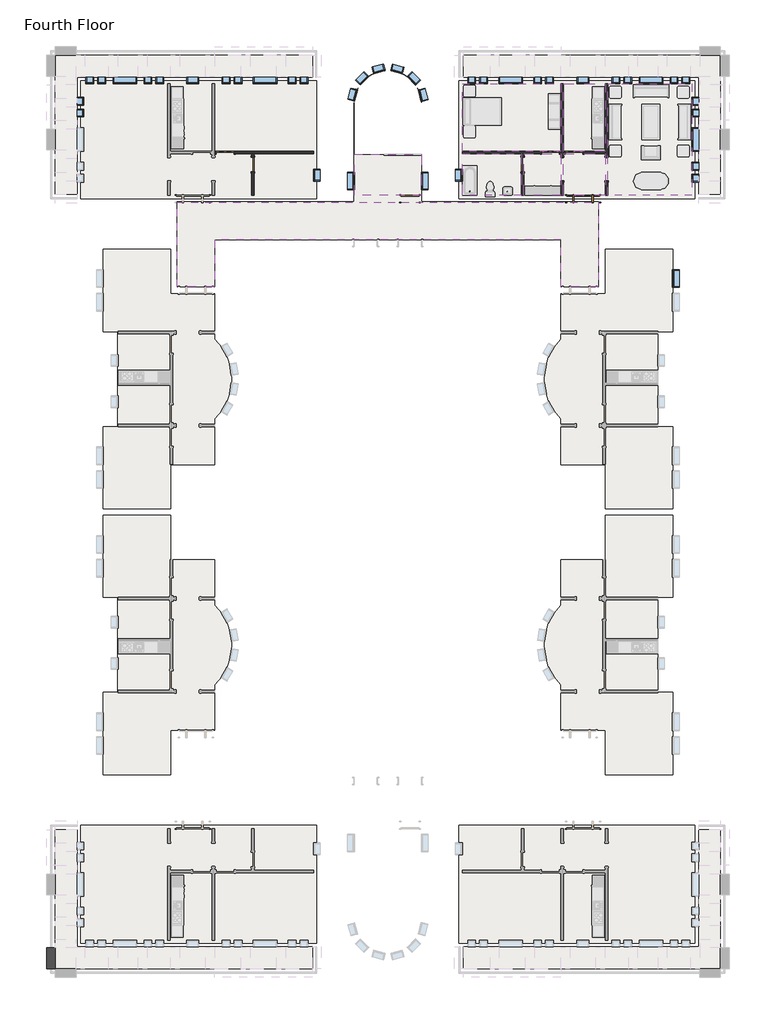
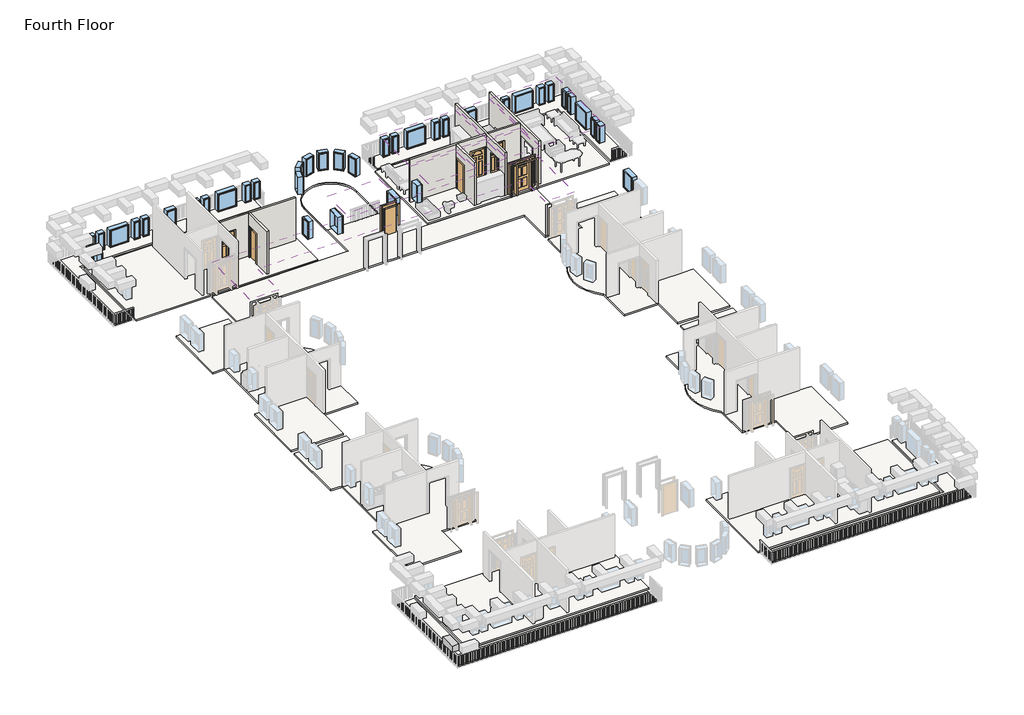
# One storey, part 3 of 5: 40 windows, 13 slabs, 8 coverings, 7 doors, 7 walls, 1 beam.
"""IFC4 building model written with IfcOpenShell, lengths in millimetres."""

from ifc_helpers import new_model, si_unit, point, frame, frame_2d, origin, place, context, project, spatial, polyline, circle_curve, trimmed, segment, composite_curve, outline, extrude, faceted_brep, transform, mapped, element, save
from components import door_829da954, door_2e3b4da2, door_4d6c7550, door_e36758a9, door_632be17d, door_dba5aa2e, window_da97879f, window_d61ef850, window_60baf983, window_ed80354a, window_15c49d37, window_0e2fc6ce, window_6eb97611, window_d89bf842

model = new_model("IFC4")

# Units and contexts
model_context = context("Model", 3, world=origin())
ifc_project = project(units=[si_unit("LENGTHUNIT", "METRE", prefix="MILLI")], contexts=[model_context])

# Site, building, storey
site = spatial("IfcSite", under=ifc_project)
building = spatial("IfcBuilding", under=site)
storey = spatial("IfcBuildingStorey", under=building, Name="Fourth Floor", Elevation=9144.0)

# Beam
placement = place(None, origin())
element("IfcBeam", 1, ObjectType="Concrete-Rectangular Beam : 18 x 18", at=placement, inside=storey, context=model_context, shape_type="SweptSolid", body=[
    extrude(outline(polyline([(-32675.4839563, -34283.1683133), (-32218.2839563, -34283.1683133), (-32218.2839563, -35349.9683133), (-32675.4839563, -35349.9683133), (-32675.4839563, -34283.1683133)])), frame((0.0, 0.0, 10210.8), z_axis=(0.0, 0.0, 1.0), x_axis=(1.0, 0.0, 0.0)), (0.0, 0.0, 1.0), 457.2),
])

# Coverings
element("IfcCovering", 2, ObjectType="GWB on Mtl. Stud", at=placement, inside=storey, context=model_context, shape_type="SweptSolid", body=[
    extrude(outline(polyline([(-11217.2464563, 10270.0191867), (-6122.9589563, 10270.0191867), (-6122.9589563, 6787.0441867), (-11217.2464563, 6787.0441867), (-11217.2464563, 10270.0191867)])), frame((0.0, 0.0, 11734.8), z_axis=(0.0, 0.0, 1.0), x_axis=(1.0, 0.0, 0.0)), (0.0, 0.0, 1.0), 107.95),
])
element("IfcCovering", 3, ObjectType="GWB on Mtl. Stud", at=placement, inside=storey, context=model_context, shape_type="SweptSolid", body=[
    extrude(outline(polyline([(-5995.9589563, 6787.0441867), (-5995.9589563, 10270.0191867), (-3836.9589563, 10270.0191867), (-3836.9589563, 6787.0441867), (-5995.9589563, 6787.0441867)])), frame((0.0, 0.0, 11734.8), z_axis=(0.0, 0.0, 1.0), x_axis=(1.0, 0.0, 0.0)), (0.0, 0.0, 1.0), 107.95),
])
element("IfcCovering", 4, ObjectType="GWB on Mtl. Stud", at=placement, inside=storey, context=model_context, shape_type="SweptSolid", body=[
    extrude(outline(polyline([(-3709.9589563, 4526.4441867), (-3709.9589563, 10270.0191867), (622.3285437, 10270.0191867), (622.3285437, 4526.4441867), (-3709.9589563, 4526.4441867)])), frame((0.0, 0.0, 11734.8), z_axis=(0.0, 0.0, 1.0), x_axis=(1.0, 0.0, 0.0)), (0.0, 0.0, 1.0), 107.95),
])
element("IfcCovering", 5, ObjectType="GWB on Mtl. Stud", at=placement, inside=storey, context=model_context, shape_type="SweptSolid", body=[
    extrude(outline(polyline([(-3836.9589563, 4526.4441867), (-5995.9589563, 4526.4441867), (-5995.9589563, 6660.0441867), (-3836.9589563, 6660.0441867), (-3836.9589563, 4526.4441867)])), frame((0.0, 0.0, 11734.8), z_axis=(0.0, 0.0, 1.0), x_axis=(1.0, 0.0, 0.0)), (0.0, 0.0, 1.0), 107.95),
])
element("IfcCovering", 6, ObjectType="GWB on Mtl. Stud", at=placement, inside=storey, context=model_context, shape_type="SweptSolid", body=[
    extrude(outline(polyline([(-6122.9589563, 4526.4441867), (-8042.2464563, 4526.4441867), (-8042.2464563, 6660.0441867), (-6122.9589563, 6660.0441867), (-6122.9589563, 4526.4441867)])), frame((0.0, 0.0, 11734.8), z_axis=(0.0, 0.0, 1.0), x_axis=(1.0, 0.0, 0.0)), (0.0, 0.0, 1.0), 107.95),
])
element("IfcCovering", 7, ObjectType="GWB on Mtl. Stud", at=placement, inside=storey, context=model_context, shape_type="SweptSolid", body=[
    extrude(outline(polyline([(-8169.2464563, 6660.0441867), (-8169.2464563, 4526.4441867), (-11217.2464563, 4526.4441867), (-11217.2464563, 6660.0441867), (-8169.2464563, 6660.0441867)])), frame((0.0, 0.0, 11734.8), z_axis=(0.0, 0.0, 1.0), x_axis=(1.0, 0.0, 0.0)), (0.0, 0.0, 1.0), 107.95),
])
element("IfcCovering", 8, ObjectType="GWB on Mtl. Stud", at=placement, inside=storey, context=model_context, shape_type="SweptSolid", body=[
    extrude(outline(polyline([(-13333.3839563, 4526.4441867), (-16790.9589563, 4526.4441867), (-16790.9589563, 6636.2316867), (-13333.3839563, 6636.2316867), (-13333.3839563, 4526.4441867)])), frame((0.0, 0.0, 11582.4), z_axis=(0.0, 0.0, 1.0), x_axis=(1.0, 0.0, 0.0)), (0.0, 0.0, 1.0), 107.95),
])
element("IfcCovering", 9, ObjectType="GWB on Mtl. Stud", at=placement, inside=storey, context=model_context, shape_type="SweptSolid", body=[
    extrude(outline(polyline([(-6122.9589563, -197.9558133), (-6122.9589563, 2240.4441867), (-24001.3839563, 2240.4441867), (-24001.3839563, -197.9558133), (-25934.9589563, -197.9558133), (-25934.9589563, 4174.0191867), (-4189.3839563, 4174.0191867), (-4189.3839563, -197.9558133), (-6122.9589563, -197.9558133)])), frame((0.0, 0.0, 11582.4), z_axis=(0.0, 0.0, 1.0), x_axis=(1.0, 0.0, 0.0)), (0.0, 0.0, 1.0), 107.95),
])

# Doors
door_shape = door_829da954(model_context)
element("IfcDoor", 10, ObjectType="Single-Decorative 2 : 36\" x 84\"", at=placement, inside=storey, context=model_context, shape_type="MappedRepresentation", body=[
    mapped(door_shape, transform((-5449.8589563, 6723.5441867, 9144.0), x_axis=(-1.0, 0.0, 0.0), y_axis=(0.0, -1.0, 0.0), z_axis=(0.0, 0.0, 1.0))),
])
element("IfcDoor", 11, ObjectType="Single-Decorative 2 : 36\" x 84\"", at=placement, inside=storey, context=model_context, shape_type="MappedRepresentation", body=[
    mapped(door_shape, transform((-23455.2839563, 6723.5441867, 9144.0), x_axis=(-1.0, 0.0, 0.0), y_axis=(0.0, -1.0, 0.0), z_axis=(0.0, 0.0, 1.0))),
])
door_2_shape = door_2e3b4da2(model_context)
element("IfcDoor", 12, ObjectType="Single-Decorative 2 : 36\" x 84\"", at=placement, inside=storey, context=model_context, shape_type="MappedRepresentation", body=[
    mapped(door_2_shape, transform((-6669.0589563, 6723.5441867, 9144.0), x_axis=(1.0, 0.0, 0.0), y_axis=(0.0, 1.0, 0.0), z_axis=(0.0, 0.0, 1.0))),
])
door_3_shape = door_4d6c7550(model_context)
element("IfcDoor", 13, ObjectType="Single-Flush : 30\" x 84\"", at=placement, inside=storey, context=model_context, shape_type="MappedRepresentation", body=[
    mapped(door_3_shape, transform((-8105.7464563, 6113.9441867, 9144.0), x_axis=(0.0, 1.0, 0.0), y_axis=(-1.0, 0.0, 0.0), z_axis=(0.0, 0.0, 1.0))),
])
door_4_shape = door_e36758a9(model_context)
element("IfcDoor", 14, ObjectType="Single-Flush : 30\" x 84\"", at=placement, inside=storey, context=model_context, shape_type="MappedRepresentation", body=[
    mapped(door_4_shape, transform((-22018.5964563, 6113.9441867, 9144.0), x_axis=(0.0, 1.0, 0.0), y_axis=(-1.0, 0.0, 0.0), z_axis=(0.0, 0.0, 1.0))),
])
door_5_shape = door_632be17d(model_context)
element("IfcDoor", 15, ObjectType="Single-Flush : 36\" x 84\"", at=placement, inside=storey, context=model_context, shape_type="MappedRepresentation", body=[
    mapped(door_5_shape, transform((-13919.1714563, 4350.2316867, 9144.0), x_axis=(1.0, 0.0, 0.0), y_axis=(0.0, 1.0, 0.0), z_axis=(0.0, 0.0, 1.0))),
])
door_6_shape = door_dba5aa2e(model_context)
element("IfcDoor", 16, ObjectType="Single-Raised Panel with Sidelights : 36\" x 84\"", at=placement, inside=storey, context=model_context, shape_type="MappedRepresentation", body=[
    mapped(door_6_shape, transform((-4992.6589563, 4350.2316867, 9144.0), x_axis=(-1.0, 0.0, 0.0), y_axis=(0.0, -1.0, 0.0), z_axis=(0.0, 0.0, 1.0))),
])

# Slabs
element("IfcSlab", 17, ObjectType="LW Concrete on Metal Deck", at=placement, inside=storey, context=model_context, shape_type="SweptSolid", body=[
    extrude(outline(polyline([(787.4285437, 10435.1191867), (787.4285437, 4361.3441867), (-11382.3464563, 4361.3441867), (-11382.3464563, 10435.1191867), (787.4285437, 10435.1191867)])), frame((0.0, 0.0, 9039.225), z_axis=(0.0, 0.0, 1.0), x_axis=(1.0, 0.0, 0.0)), (0.0, 0.0, 1.0), 104.775),
])
element("IfcSlab", 18, ObjectType="LW Concrete on Metal Deck", at=placement, inside=storey, context=model_context, shape_type="SweptSolid", body=[
    extrude(outline(polyline([(-11164.8589563, 11741.6316867), (2093.9410437, 11741.6316867), (2093.9410437, 4578.8316867), (974.7535437, 4578.8316867), (974.7535437, 10622.4441867), (-11164.8589563, 10622.4441867), (-11164.8589563, 11741.6316867)])), frame((0.0, 0.0, 9039.225), z_axis=(0.0, 0.0, 1.0), x_axis=(1.0, 0.0, 0.0)), (0.0, 0.0, 1.0), 104.775),
])
element("IfcSlab", 19, ObjectType="LW Concrete on Metal Deck", at=placement, inside=storey, context=model_context, shape_type="SweptSolid", body=[
    extrude(outline(composite_curve([segment(polyline([(-13320.6839563, 9227.0316867), (-13320.6839563, 4186.7191867), (-4189.3839563, 4186.7191867), (-4189.3839563, -197.9558133), (-6135.6589563, -197.9558133), (-6135.6589563, 2227.7441867), (-23988.6839563, 2227.7441867), (-23988.6839563, -197.9558133), (-25934.9589563, -197.9558133), (-25934.9589563, 4186.7191867), (-16803.6589563, 4186.7191867), (-16803.6589563, 9227.0316867)]), True, "CONTINUOUS"), segment(trimmed(circle_curve(frame_2d((-15062.1714563, 9227.0316867)), 1741.4875), [point((-16803.6589563, 9227.0316867))], [point((-13320.6839563, 9227.0316867))], False, "CARTESIAN"), True, "CONTINUOUS")], self_intersect=False), holes=[composite_curve([segment(polyline([(-16790.9589563, 6636.2316867), (-13333.3839563, 6636.2316867), (-13333.3839563, 9227.0316867)]), True, "CONTINUOUS"), segment(trimmed(circle_curve(frame_2d((-15062.1714563, 9227.0316867)), 1728.7875), [point((-13333.3839563, 9227.0316867))], [point((-16790.9589563, 9227.0316867))], True, "CARTESIAN"), True, "CONTINUOUS"), segment(polyline([(-16790.9589563, 9227.0316867), (-16790.9589563, 6636.2316867)]), True, "CONTINUOUS")], self_intersect=False)]), frame((0.0, 0.0, 9039.225), z_axis=(0.0, 0.0, 1.0), x_axis=(1.0, 0.0, 0.0)), (0.0, 0.0, 1.0), 104.775),
])
element("IfcSlab", 20, ObjectType="LW Concrete on Metal Deck", at=placement, inside=storey, context=model_context, shape_type="SweptSolid", body=[
    extrude(outline(composite_curve([segment(polyline([(-366.6839563, -7395.6808133), (-366.6839563, -11640.6558133), (-3849.6589563, -11640.6558133), (-3849.6589563, -9354.6558133), (-6135.6589563, -9354.6558133), (-6135.6589563, -6994.1453152)]), True, "CONTINUOUS"), segment(trimmed(circle_curve(frame_2d((-4122.4640713, -4946.1683133)), 2871.7875), [point((-6135.6589563, -6994.1453152))], [point((-6135.6589563, -2898.1913115))], False, "CARTESIAN"), True, "CONTINUOUS"), segment(polyline([(-6135.6589563, -2898.1913115), (-6135.6589563, -537.6808133), (-3849.6589563, -537.6808133), (-3849.6589563, 1748.3191867), (-366.6839563, 1748.3191867), (-366.6839563, -2496.6558133), (-1128.6839563, -2496.6558133), (-1128.6839563, -7395.6808133), (-366.6839563, -7395.6808133)]), True, "CONTINUOUS")], self_intersect=False)), frame((0.0, 0.0, 9039.225), z_axis=(0.0, 0.0, 1.0), x_axis=(1.0, 0.0, 0.0)), (0.0, 0.0, 1.0), 104.775),
])
element("IfcSlab", 21, ObjectType="LW Concrete on Metal Deck", at=placement, inside=storey, context=model_context, shape_type="SweptSolid", body=[
    extrude(outline(polyline([(-30911.7714563, 10435.1191867), (-18741.9964563, 10435.1191867), (-18741.9964563, 4361.3441867), (-30911.7714563, 4361.3441867), (-30911.7714563, 10435.1191867)])), frame((0.0, 0.0, 9039.225), z_axis=(0.0, 0.0, 1.0), x_axis=(1.0, 0.0, 0.0)), (0.0, 0.0, 1.0), 104.775),
])
element("IfcSlab", 22, ObjectType="LW Concrete on Metal Deck", at=placement, inside=storey, context=model_context, shape_type="SweptSolid", body=[
    extrude(outline(composite_curve([segment(polyline([(-29757.6589563, -7395.6808133), (-28995.6589563, -7395.6808133), (-28995.6589563, -2496.6558133), (-29757.6589563, -2496.6558133), (-29757.6589563, 1748.3191867), (-26274.6839563, 1748.3191867), (-26274.6839563, -537.6808133), (-23988.6839563, -537.6808133), (-23988.6839563, -2898.1913115)]), True, "CONTINUOUS"), segment(trimmed(circle_curve(frame_2d((-26001.8788413, -4946.1683133)), 2871.7875), [point((-23988.6839563, -2898.1913115))], [point((-23988.6839563, -6994.1453152))], False, "CARTESIAN"), True, "CONTINUOUS"), segment(polyline([(-23988.6839563, -6994.1453152), (-23988.6839563, -9354.6558133), (-26274.6839563, -9354.6558133), (-26274.6839563, -11640.6558133), (-29757.6589563, -11640.6558133), (-29757.6589563, -7395.6808133)]), True, "CONTINUOUS")], self_intersect=False)), frame((0.0, 0.0, 9039.225), z_axis=(0.0, 0.0, 1.0), x_axis=(1.0, 0.0, 0.0)), (0.0, 0.0, 1.0), 104.775),
])
element("IfcSlab", 23, ObjectType="LW Concrete on Metal Deck", at=placement, inside=storey, context=model_context, shape_type="SweptSolid", body=[
    extrude(outline(polyline([(-18959.4839563, 11741.6316867), (-18959.4839563, 10622.4441867), (-31099.0964563, 10622.4441867), (-31099.0964563, 4578.8316867), (-32218.2839563, 4578.8316867), (-32218.2839563, 11741.6316867), (-18959.4839563, 11741.6316867)])), frame((0.0, 0.0, 9039.225), z_axis=(0.0, 0.0, 1.0), x_axis=(1.0, 0.0, 0.0)), (0.0, 0.0, 1.0), 104.775),
])
element("IfcSlab", 24, ObjectType="LW Concrete on Metal Deck", at=placement, inside=storey, context=model_context, shape_type="SweptSolid", body=[
    extrude(outline(polyline([(787.4285437, -34043.4558133), (-11382.3464563, -34043.4558133), (-11382.3464563, -27969.6808133), (787.4285437, -27969.6808133), (787.4285437, -34043.4558133)])), frame((0.0, 0.0, 9039.225), z_axis=(0.0, 0.0, 1.0), x_axis=(1.0, 0.0, 0.0)), (0.0, 0.0, 1.0), 104.775),
])
element("IfcSlab", 25, ObjectType="LW Concrete on Metal Deck", at=placement, inside=storey, context=model_context, shape_type="SweptSolid", body=[
    extrude(outline(composite_curve([segment(polyline([(-366.6839563, -16212.6558133), (-1128.6839563, -16212.6558133), (-1128.6839563, -21111.6808133), (-366.6839563, -21111.6808133), (-366.6839563, -25356.6558133), (-3849.6589563, -25356.6558133), (-3849.6589563, -23070.6558133), (-6135.6589563, -23070.6558133), (-6135.6589563, -20710.1453152)]), True, "CONTINUOUS"), segment(trimmed(circle_curve(frame_2d((-4122.4640713, -18662.1683133)), 2871.7875), [point((-6135.6589563, -20710.1453152))], [point((-6135.6589563, -16614.1913115))], False, "CARTESIAN"), True, "CONTINUOUS"), segment(polyline([(-6135.6589563, -16614.1913115), (-6135.6589563, -14253.6808133), (-3849.6589563, -14253.6808133), (-3849.6589563, -11967.6808133), (-366.6839563, -11967.6808133), (-366.6839563, -16212.6558133)]), True, "CONTINUOUS")], self_intersect=False)), frame((0.0, 0.0, 9039.225), z_axis=(0.0, 0.0, 1.0), x_axis=(1.0, 0.0, 0.0)), (0.0, 0.0, 1.0), 104.775),
])
element("IfcSlab", 26, ObjectType="LW Concrete on Metal Deck", at=placement, inside=storey, context=model_context, shape_type="SweptSolid", body=[
    extrude(outline(polyline([(-30911.7714563, -34043.4558133), (-30911.7714563, -27969.6808133), (-18741.9964563, -27969.6808133), (-18741.9964563, -34043.4558133), (-30911.7714563, -34043.4558133)])), frame((0.0, 0.0, 9039.225), z_axis=(0.0, 0.0, 1.0), x_axis=(1.0, 0.0, 0.0)), (0.0, 0.0, 1.0), 104.775),
])
element("IfcSlab", 27, ObjectType="LW Concrete on Metal Deck", at=placement, inside=storey, context=model_context, shape_type="SweptSolid", body=[
    extrude(outline(composite_curve([segment(polyline([(-29757.6589563, -16212.6558133), (-29757.6589563, -11967.6808133), (-26274.6839563, -11967.6808133), (-26274.6839563, -14253.6808133), (-23988.6839563, -14253.6808133), (-23988.6839563, -16614.1913115)]), True, "CONTINUOUS"), segment(trimmed(circle_curve(frame_2d((-26001.8788413, -18662.1683133)), 2871.7875), [point((-23988.6839563, -16614.1913115))], [point((-23988.6839563, -20710.1453152))], False, "CARTESIAN"), True, "CONTINUOUS"), segment(polyline([(-23988.6839563, -20710.1453152), (-23988.6839563, -23070.6558133), (-26274.6839563, -23070.6558133), (-26274.6839563, -25356.6558133), (-29757.6589563, -25356.6558133), (-29757.6589563, -21111.6808133), (-28995.6589563, -21111.6808133), (-28995.6589563, -16212.6558133), (-29757.6589563, -16212.6558133)]), True, "CONTINUOUS")], self_intersect=False)), frame((0.0, 0.0, 9039.225), z_axis=(0.0, 0.0, 1.0), x_axis=(1.0, 0.0, 0.0)), (0.0, 0.0, 1.0), 104.775),
])
element("IfcSlab", 28, ObjectType="LW Concrete on Metal Deck", at=placement, inside=storey, context=model_context, shape_type="SweptSolid", body=[
    extrude(outline(polyline([(-11164.8589563, -35349.9683133), (-11164.8589563, -34230.7808133), (974.7535437, -34230.7808133), (974.7535437, -28187.1683133), (2093.9410437, -28187.1683133), (2093.9410437, -35349.9683133), (-11164.8589563, -35349.9683133)])), frame((0.0, 0.0, 9039.225), z_axis=(0.0, 0.0, 1.0), x_axis=(1.0, 0.0, 0.0)), (0.0, 0.0, 1.0), 104.775),
])
element("IfcSlab", 29, ObjectType="LW Concrete on Metal Deck", at=placement, inside=storey, context=model_context, shape_type="SweptSolid", body=[
    extrude(outline(polyline([(-18959.4839563, -35349.9683133), (-32218.2839563, -35349.9683133), (-32218.2839563, -28187.1683133), (-31099.0964563, -28187.1683133), (-31099.0964563, -34230.7808133), (-18959.4839563, -34230.7808133), (-18959.4839563, -35349.9683133)])), frame((0.0, 0.0, 9039.225), z_axis=(0.0, 0.0, 1.0), x_axis=(1.0, 0.0, 0.0)), (0.0, 0.0, 1.0), 104.775),
])

# Walls
element("IfcWall", 30, ObjectType="Interior - 5\" Partition (2-hr)", at=placement, inside=storey, context=model_context, shape_type="Brep", body=[
    faceted_brep([(-3836.9589563, 10270.0191867, 9144.0), (-3836.9589563, 6787.0441867, 9144.0), (-3836.9589563, 6660.0441867, 9144.0), (-3836.9589563, 6483.8316867, 9144.0), (-3836.9589563, 6483.8316867, 11277.6), (-3836.9589563, 5264.6316867, 11277.6), (-3836.9589563, 5264.6316867, 9144.0), (-3836.9589563, 4526.4441867, 9144.0), (-3836.9589563, 4526.4441867, 12192.0), (-3836.9589563, 6660.0441867, 12192.0), (-3836.9589563, 6787.0441867, 12192.0), (-3836.9589563, 10270.0191867, 12192.0), (-3709.9589563, 6483.8316867, 11277.6), (-3709.9589563, 6483.8316867, 9144.0), (-3709.9589563, 10270.0191867, 9144.0), (-3709.9589563, 10270.0191867, 12192.0), (-3709.9589563, 4526.4441867, 12192.0), (-3709.9589563, 4526.4441867, 9144.0), (-3709.9589563, 5264.6316867, 9144.0), (-3709.9589563, 5264.6316867, 11277.6)], [[[0, 1, 2, 3, 4, 5, 6, 7, 8, 9, 10, 11]], [[12, 13, 14, 15, 16, 17, 18, 19]], [[14, 13, 3, 2, 1, 0]], [[18, 17, 7, 6]], [[11, 10, 9, 8, 16, 15]], [[0, 11, 15, 14]], [[8, 7, 17, 16]], [[6, 5, 19, 18]], [[4, 3, 13, 12]], [[5, 4, 12, 19]]]),
])
element("IfcWall", 31, ObjectType="Interior - 5\" Partition (2-hr)", at=placement, inside=storey, context=model_context, shape_type="Brep", body=[
    faceted_brep([(-6122.9589563, 5264.6316867, 11277.6), (-6122.9589563, 5264.6316867, 9144.0), (-6122.9589563, 4526.4441867, 9144.0), (-6122.9589563, 4526.4441867, 12192.0), (-6122.9589563, 6660.0441867, 12192.0), (-6122.9589563, 6787.0441867, 12192.0), (-6122.9589563, 10270.0191867, 12192.0), (-6122.9589563, 10270.0191867, 9144.0), (-6122.9589563, 6787.0441867, 9144.0), (-6122.9589563, 6660.0441867, 9144.0), (-6122.9589563, 6483.8316867, 9144.0), (-6122.9589563, 6483.8316867, 11277.6), (-5995.9589563, 4526.4441867, 9144.0), (-5995.9589563, 5264.6316867, 9144.0), (-5995.9589563, 5264.6316867, 11277.6), (-5995.9589563, 6483.8316867, 11277.6), (-5995.9589563, 6483.8316867, 9144.0), (-5995.9589563, 6660.0441867, 9144.0), (-5995.9589563, 6787.0441867, 9144.0), (-5995.9589563, 10270.0191867, 9144.0), (-5995.9589563, 10270.0191867, 12192.0), (-5995.9589563, 6787.0441867, 12192.0), (-5995.9589563, 6660.0441867, 12192.0), (-5995.9589563, 4526.4441867, 12192.0)], [[[0, 1, 2, 3, 4, 5, 6, 7, 8, 9, 10, 11]], [[12, 13, 14, 15, 16, 17, 18, 19, 20, 21, 22, 23]], [[2, 1, 13, 12]], [[10, 9, 8, 7, 19, 18, 17, 16]], [[6, 5, 4, 3, 23, 22, 21, 20]], [[7, 6, 20, 19]], [[3, 2, 12, 23]], [[16, 15, 11, 10]], [[14, 13, 1, 0]], [[15, 14, 0, 11]]]),
])
element("IfcWall", 32, ObjectType="Interior - 5\" Partition (2-hr)", at=placement, inside=storey, context=model_context, shape_type="Brep", body=[
    faceted_brep([(-6211.8589563, 6660.0441867, 11277.6), (-6211.8589563, 6660.0441867, 9144.0), (-6122.9589563, 6660.0441867, 9144.0), (-6122.9589563, 6660.0441867, 12192.0), (-8042.2464563, 6660.0441867, 12192.0), (-8169.2464563, 6660.0441867, 12192.0), (-11217.2464563, 6660.0441867, 12192.0), (-11217.2464563, 6660.0441867, 9144.0), (-8169.2464563, 6660.0441867, 9144.0), (-8042.2464563, 6660.0441867, 9144.0), (-7126.2589563, 6660.0441867, 9144.0), (-7126.2589563, 6660.0441867, 11277.6), (-6122.9589563, 6787.0441867, 9144.0), (-6211.8589563, 6787.0441867, 9144.0), (-6211.8589563, 6787.0441867, 11277.6), (-7126.2589563, 6787.0441867, 11277.6), (-7126.2589563, 6787.0441867, 9144.0), (-11217.2464563, 6787.0441867, 9144.0), (-11217.2464563, 6787.0441867, 12192.0), (-6122.9589563, 6787.0441867, 12192.0)], [[[0, 1, 2, 3, 4, 5, 6, 7, 8, 9, 10, 11]], [[12, 13, 14, 15, 16, 17, 18, 19]], [[2, 1, 13, 12]], [[10, 9, 8, 7, 17, 16]], [[6, 5, 4, 3, 19, 18]], [[3, 2, 12, 19]], [[7, 6, 18, 17]], [[14, 13, 1, 0]], [[15, 14, 0, 11]], [[16, 15, 11, 10]]]),
])
element("IfcWall", 33, ObjectType="Interior - 5\" Partition (2-hr)", at=placement, inside=storey, context=model_context, shape_type="SweptSolid", body=[
    extrude(outline(polyline([(6660.0441867, 9144.0), (6494.9441867, 9144.0), (6494.9441867, 11277.6), (5732.9441867, 11277.6), (5732.9441867, 9144.0), (4526.4441867, 9144.0), (4526.4441867, 12192.0), (6660.0441867, 12192.0), (6660.0441867, 9144.0)])), frame((-8169.2464563, 0.0, 0.0), z_axis=(1.0, 0.0, 0.0), x_axis=(0.0, 1.0, 0.0)), (0.0, 0.0, 1.0), 127.0),
])
element("IfcWall", 34, ObjectType="Interior - 5\" Partition (2-hr)", at=placement, inside=storey, context=model_context, shape_type="SweptSolid", body=[
    extrude(outline(polyline([(9144.0, -5995.9589563), (9144.0, -5907.0589563), (11277.6, -5907.0589563), (11277.6, -4992.6589563), (9144.0, -4992.6589563), (9144.0, -3836.9589563), (12192.0, -3836.9589563), (12192.0, -5995.9589563), (9144.0, -5995.9589563)])), frame((0.0, 6660.0441867, 0.0), z_axis=(0.0, 1.0, 0.0), x_axis=(0.0, 0.0, 1.0)), (0.0, 0.0, 1.0), 127.0),
])
element("IfcWall", 35, ObjectType="Interior - 5\" Partition (2-hr)", at=placement, inside=storey, context=model_context, shape_type="Brep", body=[
    faceted_brep([(-23912.4839563, 6787.0441867, 11277.6), (-23912.4839563, 6787.0441867, 9144.0), (-24001.3839563, 6787.0441867, 9144.0), (-24001.3839563, 6787.0441867, 12192.0), (-18907.0964563, 6787.0441867, 12192.0), (-18907.0964563, 6787.0441867, 9144.0), (-22998.0839563, 6787.0441867, 9144.0), (-22998.0839563, 6787.0441867, 11277.6), (-24001.3839563, 6660.0441867, 9144.0), (-23912.4839563, 6660.0441867, 9144.0), (-23912.4839563, 6660.0441867, 11277.6), (-22998.0839563, 6660.0441867, 11277.6), (-22998.0839563, 6660.0441867, 9144.0), (-22082.0964563, 6660.0441867, 9144.0), (-21955.0964563, 6660.0441867, 9144.0), (-18907.0964563, 6660.0441867, 9144.0), (-18907.0964563, 6660.0441867, 12192.0), (-21955.0964563, 6660.0441867, 12192.0), (-22082.0964563, 6660.0441867, 12192.0), (-24001.3839563, 6660.0441867, 12192.0)], [[[0, 1, 2, 3, 4, 5, 6, 7]], [[8, 9, 10, 11, 12, 13, 14, 15, 16, 17, 18, 19]], [[2, 1, 9, 8]], [[6, 5, 15, 14, 13, 12]], [[4, 3, 19, 18, 17, 16]], [[3, 2, 8, 19]], [[5, 4, 16, 15]], [[10, 9, 1, 0]], [[11, 10, 0, 7]], [[12, 11, 7, 6]]]),
])
element("IfcWall", 36, ObjectType="Interior - 5\" Partition (2-hr)", at=placement, inside=storey, context=model_context, shape_type="SweptSolid", body=[
    extrude(outline(polyline([(6660.0441867, 9144.0), (6494.9441867, 9144.0), (6494.9441867, 11277.6), (5732.9441867, 11277.6), (5732.9441867, 9144.0), (4526.4441867, 9144.0), (4526.4441867, 12192.0), (6660.0441867, 12192.0), (6660.0441867, 9144.0)])), frame((-22082.0964563, 0.0, 0.0), z_axis=(1.0, 0.0, 0.0), x_axis=(0.0, 1.0, 0.0)), (0.0, 0.0, 1.0), 127.0),
])

# Windows
window_shape = window_da97879f(model_context)
element("IfcWindow", 37, ObjectType="Fixed : 16\" x 48\"", at=placement, inside=storey, context=model_context, shape_type="MappedRepresentation", body=[
    mapped(window_shape, transform((-10771.1589563, 10446.2316867, 9144.0), x_axis=(-1.0, 0.0, 0.0), y_axis=(0.0, -1.0, 0.0), z_axis=(0.0, 0.0, 1.0))),
])
element("IfcWindow", 38, ObjectType="Fixed : 16\" x 48\"", at=placement, inside=storey, context=model_context, shape_type="MappedRepresentation", body=[
    mapped(window_shape, transform((-10161.5589563, 10446.2316867, 9144.0), x_axis=(-1.0, 0.0, 0.0), y_axis=(0.0, -1.0, 0.0), z_axis=(0.0, 0.0, 1.0))),
])
element("IfcWindow", 39, ObjectType="Fixed : 16\" x 48\"", at=placement, inside=storey, context=model_context, shape_type="MappedRepresentation", body=[
    mapped(window_shape, transform((-3328.9589563, 10446.2316867, 9144.0), x_axis=(-1.0, 0.0, 0.0), y_axis=(0.0, -1.0, 0.0), z_axis=(0.0, 0.0, 1.0))),
])
element("IfcWindow", 40, ObjectType="Fixed : 16\" x 48\"", at=placement, inside=storey, context=model_context, shape_type="MappedRepresentation", body=[
    mapped(window_shape, transform((-2719.3589563, 10446.2316867, 9144.0), x_axis=(-1.0, 0.0, 0.0), y_axis=(0.0, -1.0, 0.0), z_axis=(0.0, 0.0, 1.0))),
])
element("IfcWindow", 41, ObjectType="Fixed : 16\" x 48\"", at=placement, inside=storey, context=model_context, shape_type="MappedRepresentation", body=[
    mapped(window_shape, transform((798.5410437, 9417.5316867, 9144.0), x_axis=(0.0, 1.0, 0.0), y_axis=(-1.0, 0.0, 0.0), z_axis=(0.0, 0.0, 1.0))),
])
element("IfcWindow", 42, ObjectType="Fixed : 16\" x 48\"", at=placement, inside=storey, context=model_context, shape_type="MappedRepresentation", body=[
    mapped(window_shape, transform((798.5410437, 8807.9316867, 9144.0), x_axis=(0.0, 1.0, 0.0), y_axis=(-1.0, 0.0, 0.0), z_axis=(0.0, 0.0, 1.0))),
])
element("IfcWindow", 43, ObjectType="Fixed : 16\" x 48\"", at=placement, inside=storey, context=model_context, shape_type="MappedRepresentation", body=[
    mapped(window_shape, transform((-23442.5839563, 10446.2316867, 9144.0), x_axis=(-1.0, 0.0, 0.0), y_axis=(0.0, -1.0, 0.0), z_axis=(0.0, 0.0, 1.0))),
])
element("IfcWindow", 44, ObjectType="Fixed : 16\" x 48\"", at=placement, inside=storey, context=model_context, shape_type="MappedRepresentation", body=[
    mapped(window_shape, transform((-22832.9839563, 10446.2316867, 9144.0), x_axis=(-1.0, 0.0, 0.0), y_axis=(0.0, -1.0, 0.0), z_axis=(0.0, 0.0, 1.0))),
])
element("IfcWindow", 45, ObjectType="Fixed : 16\" x 48\"", at=placement, inside=storey, context=model_context, shape_type="MappedRepresentation", body=[
    mapped(window_shape, transform((-30478.3839563, 10446.2316867, 9144.0), x_axis=(-1.0, 0.0, 0.0), y_axis=(0.0, -1.0, 0.0), z_axis=(0.0, 0.0, 1.0))),
])
element("IfcWindow", 46, ObjectType="Fixed : 16\" x 48\"", at=placement, inside=storey, context=model_context, shape_type="MappedRepresentation", body=[
    mapped(window_shape, transform((-29868.7839563, 10446.2316867, 9144.0), x_axis=(-1.0, 0.0, 0.0), y_axis=(0.0, -1.0, 0.0), z_axis=(0.0, 0.0, 1.0))),
])
window_2_shape = window_d61ef850(model_context)
element("IfcWindow", 47, ObjectType="Fixed : 16\" x 48\"", at=placement, inside=storey, context=model_context, shape_type="MappedRepresentation", body=[
    mapped(window_2_shape, transform((-6681.7589563, 10446.2316867, 9144.0), x_axis=(1.0, 0.0, 0.0), y_axis=(0.0, 1.0, 0.0), z_axis=(0.0, 0.0, 1.0))),
])
element("IfcWindow", 48, ObjectType="Fixed : 16\" x 48\"", at=placement, inside=storey, context=model_context, shape_type="MappedRepresentation", body=[
    mapped(window_2_shape, transform((-7291.3589563, 10446.2316867, 9144.0), x_axis=(1.0, 0.0, 0.0), y_axis=(0.0, 1.0, 0.0), z_axis=(0.0, 0.0, 1.0))),
])
element("IfcWindow", 49, ObjectType="Fixed : 16\" x 48\"", at=placement, inside=storey, context=model_context, shape_type="MappedRepresentation", body=[
    mapped(window_2_shape, transform((354.0410437, 10446.2316867, 9144.0), x_axis=(1.0, 0.0, 0.0), y_axis=(0.0, 1.0, 0.0), z_axis=(0.0, 0.0, 1.0))),
])
element("IfcWindow", 50, ObjectType="Fixed : 16\" x 48\"", at=placement, inside=storey, context=model_context, shape_type="MappedRepresentation", body=[
    mapped(window_2_shape, transform((-255.5589563, 10446.2316867, 9144.0), x_axis=(1.0, 0.0, 0.0), y_axis=(0.0, 1.0, 0.0), z_axis=(0.0, 0.0, 1.0))),
])
element("IfcWindow", 51, ObjectType="Fixed : 16\" x 48\"", at=placement, inside=storey, context=model_context, shape_type="MappedRepresentation", body=[
    mapped(window_2_shape, transform((798.5410437, 5378.9316867, 9144.0), x_axis=(0.0, -1.0, 0.0), y_axis=(1.0, 0.0, 0.0), z_axis=(0.0, 0.0, 1.0))),
])
element("IfcWindow", 52, ObjectType="Fixed : 16\" x 48\"", at=placement, inside=storey, context=model_context, shape_type="MappedRepresentation", body=[
    mapped(window_2_shape, transform((798.5410437, 5988.5316867, 9144.0), x_axis=(0.0, -1.0, 0.0), y_axis=(1.0, 0.0, 0.0), z_axis=(0.0, 0.0, 1.0))),
])
element("IfcWindow", 53, ObjectType="Fixed : 16\" x 48\"", at=placement, inside=storey, context=model_context, shape_type="MappedRepresentation", body=[
    mapped(window_2_shape, transform((-19353.1839563, 10446.2316867, 9144.0), x_axis=(1.0, 0.0, 0.0), y_axis=(0.0, 1.0, 0.0), z_axis=(0.0, 0.0, 1.0))),
])
element("IfcWindow", 54, ObjectType="Fixed : 16\" x 48\"", at=placement, inside=storey, context=model_context, shape_type="MappedRepresentation", body=[
    mapped(window_2_shape, transform((-19962.7839563, 10446.2316867, 9144.0), x_axis=(1.0, 0.0, 0.0), y_axis=(0.0, 1.0, 0.0), z_axis=(0.0, 0.0, 1.0))),
])
element("IfcWindow", 55, ObjectType="Fixed : 16\" x 48\"", at=placement, inside=storey, context=model_context, shape_type="MappedRepresentation", body=[
    mapped(window_2_shape, transform((-26795.3839563, 10446.2316867, 9144.0), x_axis=(1.0, 0.0, 0.0), y_axis=(0.0, 1.0, 0.0), z_axis=(0.0, 0.0, 1.0))),
])
element("IfcWindow", 56, ObjectType="Fixed : 16\" x 48\"", at=placement, inside=storey, context=model_context, shape_type="MappedRepresentation", body=[
    mapped(window_2_shape, transform((-27404.9839563, 10446.2316867, 9144.0), x_axis=(1.0, 0.0, 0.0), y_axis=(0.0, 1.0, 0.0), z_axis=(0.0, 0.0, 1.0))),
])
element("IfcWindow", 57, ObjectType="Fixed : 16\" x 48\"", at=placement, inside=storey, context=model_context, shape_type="MappedRepresentation", body=[
    mapped(window_2_shape, transform((-30922.8839563, 9417.5316867, 9144.0), x_axis=(0.0, 1.0, 0.0), y_axis=(-1.0, 0.0, 0.0), z_axis=(0.0, 0.0, 1.0))),
])
element("IfcWindow", 58, ObjectType="Fixed : 16\" x 48\"", at=placement, inside=storey, context=model_context, shape_type="MappedRepresentation", body=[
    mapped(window_2_shape, transform((-30922.8839563, 8807.9316867, 9144.0), x_axis=(0.0, 1.0, 0.0), y_axis=(-1.0, 0.0, 0.0), z_axis=(0.0, 0.0, 1.0))),
])
window_3_shape = window_60baf983(model_context)
element("IfcWindow", 59, ObjectType="Fixed : 24\" x 48\"", at=placement, inside=storey, context=model_context, shape_type="MappedRepresentation", body=[
    mapped(window_3_shape, transform((-5030.7589563, 10446.2316867, 9144.0), x_axis=(-1.0, 0.0, 0.0), y_axis=(0.0, -1.0, 0.0), z_axis=(0.0, 0.0, 1.0))),
])
element("IfcWindow", 60, ObjectType="Fixed : 24\" x 48\"", at=placement, inside=storey, context=model_context, shape_type="MappedRepresentation", body=[
    mapped(window_3_shape, transform((-11393.4589563, 5531.3316867, 9144.0), x_axis=(0.0, -1.0, 0.0), y_axis=(1.0, 0.0, 0.0), z_axis=(0.0, 0.0, 1.0))),
])
element("IfcWindow", 61, ObjectType="Fixed : 24\" x 48\"", at=placement, inside=storey, context=model_context, shape_type="MappedRepresentation", body=[
    mapped(window_3_shape, transform((-16889.064163, 9683.0417496, 9144.0), x_axis=(-0.26176149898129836, -0.9651325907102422, 0.0), y_axis=(0.9651325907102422, -0.26176149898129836, 0.0), z_axis=(0.0, 0.0, 1.0))),
])
element("IfcWindow", 62, ObjectType="Fixed : 24\" x 48\"", at=placement, inside=storey, context=model_context, shape_type="MappedRepresentation", body=[
    mapped(window_3_shape, transform((-16416.3019188, 10535.3943388, 9144.0), x_axis=(-0.7092584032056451, -0.7049485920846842, 0.0), y_axis=(0.7049485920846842, -0.7092584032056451, 0.0), z_axis=(0.0, 0.0, 1.0))),
])
element("IfcWindow", 63, ObjectType="Fixed : 24\" x 48\"", at=placement, inside=storey, context=model_context, shape_type="MappedRepresentation", body=[
    mapped(window_3_shape, transform((-15580.7015108, 11037.1722121, 9144.0), x_axis=(-0.9667100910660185, -0.25587418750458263, 0.0), y_axis=(0.25587418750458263, -0.9667100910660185, 0.0), z_axis=(0.0, 0.0, 1.0))),
])
element("IfcWindow", 64, ObjectType="Fixed : 24\" x 48\"", at=placement, inside=storey, context=model_context, shape_type="MappedRepresentation", body=[
    mapped(window_3_shape, transform((-14606.1613934, 11053.9243933, 9144.0), x_axis=(-0.9651325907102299, 0.2617614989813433, 0.0), y_axis=(-0.2617614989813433, -0.9651325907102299, 0.0), z_axis=(0.0, 0.0, 1.0))),
])
element("IfcWindow", 65, ObjectType="Fixed : 24\" x 48\"", at=placement, inside=storey, context=model_context, shape_type="MappedRepresentation", body=[
    mapped(window_3_shape, transform((-13753.8088042, 10581.1621492, 9144.0), x_axis=(-0.7049485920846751, 0.7092584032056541, 0.0), y_axis=(-0.7092584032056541, -0.7049485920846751, 0.0), z_axis=(0.0, 0.0, 1.0))),
])
element("IfcWindow", 66, ObjectType="Fixed : 24\" x 48\"", at=placement, inside=storey, context=model_context, shape_type="MappedRepresentation", body=[
    mapped(window_3_shape, transform((-13252.0309309, 9745.5617412, 9144.0), x_axis=(-0.25587418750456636, 0.9667100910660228, 0.0), y_axis=(-0.9667100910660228, -0.25587418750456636, 0.0), z_axis=(0.0, 0.0, 1.0))),
])
window_4_shape = window_ed80354a(model_context)
element("IfcWindow", 67, ObjectType="Fixed : 24\" x 48\"", at=placement, inside=storey, context=model_context, shape_type="MappedRepresentation", body=[
    mapped(window_4_shape, transform((-25093.5839563, 10446.2316867, 9144.0), x_axis=(1.0, 0.0, 0.0), y_axis=(0.0, 1.0, 0.0), z_axis=(0.0, 0.0, 1.0))),
])
element("IfcWindow", 68, ObjectType="Fixed : 24\" x 48\"", at=placement, inside=storey, context=model_context, shape_type="MappedRepresentation", body=[
    mapped(window_4_shape, transform((-18730.8839563, 5531.3316867, 9144.0), x_axis=(0.0, -1.0, 0.0), y_axis=(1.0, 0.0, 0.0), z_axis=(0.0, 0.0, 1.0))),
])
window_5_shape = window_15c49d37(model_context)
element("IfcWindow", 69, ObjectType="Fixed : 36\" x 48\"", at=placement, inside=storey, context=model_context, shape_type="MappedRepresentation", body=[
    mapped(window_5_shape, transform((-16967.1714563, 5226.5316867, 9144.0), x_axis=(0.0, -1.0, 0.0), y_axis=(1.0, 0.0, 0.0), z_axis=(0.0, 0.0, 1.0))),
])
element("IfcWindow", 70, ObjectType="Fixed : 36\" x 48\"", at=placement, inside=storey, context=model_context, shape_type="MappedRepresentation", body=[
    mapped(window_5_shape, transform((-13157.1714563, 5302.7316867, 9144.0), x_axis=(0.0, 1.0, 0.0), y_axis=(-1.0, 0.0, 0.0), z_axis=(0.0, 0.0, 1.0))),
])
window_6_shape = window_0e2fc6ce(model_context)
element("IfcWindow", 71, ObjectType="Fixed : 36\" x 48\"", at=placement, inside=storey, context=model_context, shape_type="MappedRepresentation", body=[
    mapped(window_6_shape, transform((-203.1714563, 197.3316867, 9144.0), x_axis=(0.0, -1.0, 0.0), y_axis=(1.0, 0.0, 0.0), z_axis=(0.0, 0.0, 1.0))),
])
window_7_shape = window_6eb97611(model_context)
element("IfcWindow", 72, ObjectType="Fixed : 48\" x 48\"", at=placement, inside=storey, context=model_context, shape_type="MappedRepresentation", body=[
    mapped(window_7_shape, transform((-8764.5589563, 10446.2316867, 9144.0), x_axis=(-1.0, 0.0, 0.0), y_axis=(0.0, -1.0, 0.0), z_axis=(0.0, 0.0, 1.0))),
])
element("IfcWindow", 73, ObjectType="Fixed : 48\" x 48\"", at=placement, inside=storey, context=model_context, shape_type="MappedRepresentation", body=[
    mapped(window_7_shape, transform((-1525.5589563, 10446.2316867, 9144.0), x_axis=(-1.0, 0.0, 0.0), y_axis=(0.0, -1.0, 0.0), z_axis=(0.0, 0.0, 1.0))),
])
element("IfcWindow", 74, ObjectType="Fixed : 48\" x 48\"", at=placement, inside=storey, context=model_context, shape_type="MappedRepresentation", body=[
    mapped(window_7_shape, transform((798.5410437, 7436.3316867, 9144.0), x_axis=(0.0, 1.0, 0.0), y_axis=(-1.0, 0.0, 0.0), z_axis=(0.0, 0.0, 1.0))),
])
window_8_shape = window_d89bf842(model_context)
element("IfcWindow", 75, ObjectType="Fixed : 48\" x 48\"", at=placement, inside=storey, context=model_context, shape_type="MappedRepresentation", body=[
    mapped(window_8_shape, transform((-21359.7839563, 10446.2316867, 9144.0), x_axis=(1.0, 0.0, 0.0), y_axis=(0.0, 1.0, 0.0), z_axis=(0.0, 0.0, 1.0))),
])
element("IfcWindow", 76, ObjectType="Fixed : 48\" x 48\"", at=placement, inside=storey, context=model_context, shape_type="MappedRepresentation", body=[
    mapped(window_8_shape, transform((-28598.7839563, 10446.2316867, 9144.0), x_axis=(1.0, 0.0, 0.0), y_axis=(0.0, 1.0, 0.0), z_axis=(0.0, 0.0, 1.0))),
])

save(model, "model.ifc")
